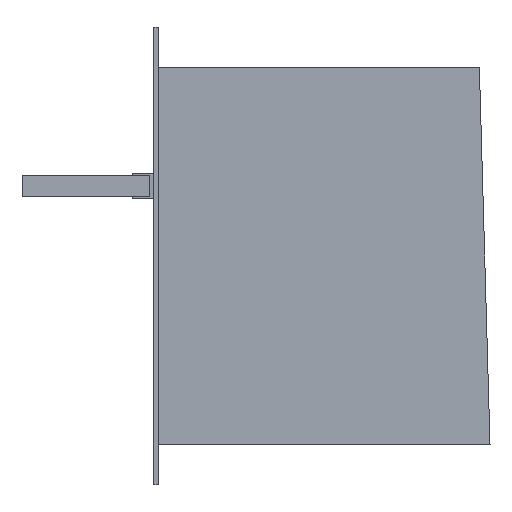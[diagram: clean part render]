
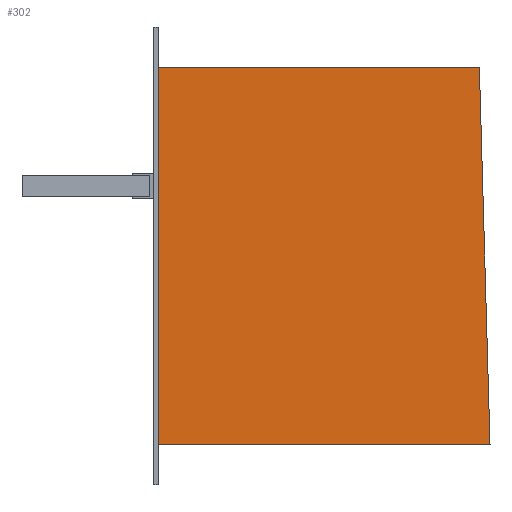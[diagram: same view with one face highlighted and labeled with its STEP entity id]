
A CAD part, left-side view. The second image highlights one B-rep face of the part: STEP entity #302.
In plain terms, the highlighted planar face has unit normal (-1, 0, 0).
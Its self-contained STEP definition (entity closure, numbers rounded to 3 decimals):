
#28 = LINE ( 'NONE', #1877, #238 ) ;
#102 = CARTESIAN_POINT ( 'NONE',  ( -741., -156., -88.5 ) ) ;
#139 = CARTESIAN_POINT ( 'NONE',  ( -741., 2., 107.5 ) ) ;
#166 = CARTESIAN_POINT ( 'NONE',  ( -741., 0., -88.5 ) ) ;
#221 = LINE ( 'NONE', #833, #1315 ) ;
#238 = VECTOR ( 'NONE', #1538, 1000. ) ;
#302 = ADVANCED_FACE ( 'NONE', ( #887 ), #1492, .F. ) ;
#343 = EDGE_LOOP ( 'NONE', ( #1332, #1650, #1467, #890 ) ) ;
#380 = DIRECTION ( 'NONE',  ( 0., 0., -1. ) ) ;
#396 = EDGE_CURVE ( 'NONE', #402, #1340, #1405, .T. ) ;
#402 = VERTEX_POINT ( 'NONE', #907 ) ;
#484 = DIRECTION ( 'NONE',  ( 0., -1., 0. ) ) ;
#551 = AXIS2_PLACEMENT_3D ( 'NONE', #139, #1207, #1813 ) ;
#566 = DIRECTION ( 'NONE',  ( 0., 0.028, 1. ) ) ;
#597 = VERTEX_POINT ( 'NONE', #1939 ) ;
#624 = CARTESIAN_POINT ( 'NONE',  ( -741., -151., 88.5 ) ) ;
#833 = CARTESIAN_POINT ( 'NONE',  ( -741., 0., 88.5 ) ) ;
#887 = FACE_OUTER_BOUND ( 'NONE', #343, .T. ) ;
#890 = ORIENTED_EDGE ( 'NONE', *, *, #1303, .T. ) ;
#907 = CARTESIAN_POINT ( 'NONE',  ( -741., 0., -88.5 ) ) ;
#995 = VECTOR ( 'NONE', #566, 1000. ) ;
#1145 = EDGE_CURVE ( 'NONE', #1677, #597, #28, .T. ) ;
#1207 = DIRECTION ( 'NONE',  ( 1., 0., 0. ) ) ;
#1294 = EDGE_CURVE ( 'NONE', #1340, #1677, #1916, .T. ) ;
#1303 = EDGE_CURVE ( 'NONE', #597, #402, #221, .T. ) ;
#1315 = VECTOR ( 'NONE', #380, 1000. ) ;
#1332 = ORIENTED_EDGE ( 'NONE', *, *, #396, .T. ) ;
#1340 = VERTEX_POINT ( 'NONE', #102 ) ;
#1405 = LINE ( 'NONE', #166, #1560 ) ;
#1467 = ORIENTED_EDGE ( 'NONE', *, *, #1145, .T. ) ;
#1492 = PLANE ( 'NONE',  #551 ) ;
#1538 = DIRECTION ( 'NONE',  ( 0., 1., 0. ) ) ;
#1560 = VECTOR ( 'NONE', #484, 1000. ) ;
#1606 = CARTESIAN_POINT ( 'NONE',  ( -741., -151., 88.5 ) ) ;
#1650 = ORIENTED_EDGE ( 'NONE', *, *, #1294, .T. ) ;
#1677 = VERTEX_POINT ( 'NONE', #624 ) ;
#1813 = DIRECTION ( 'NONE',  ( 0., 0., -1. ) ) ;
#1877 = CARTESIAN_POINT ( 'NONE',  ( -741., 0., 88.5 ) ) ;
#1916 = LINE ( 'NONE', #1606, #995 ) ;
#1939 = CARTESIAN_POINT ( 'NONE',  ( -741., 0., 88.5 ) ) ;
